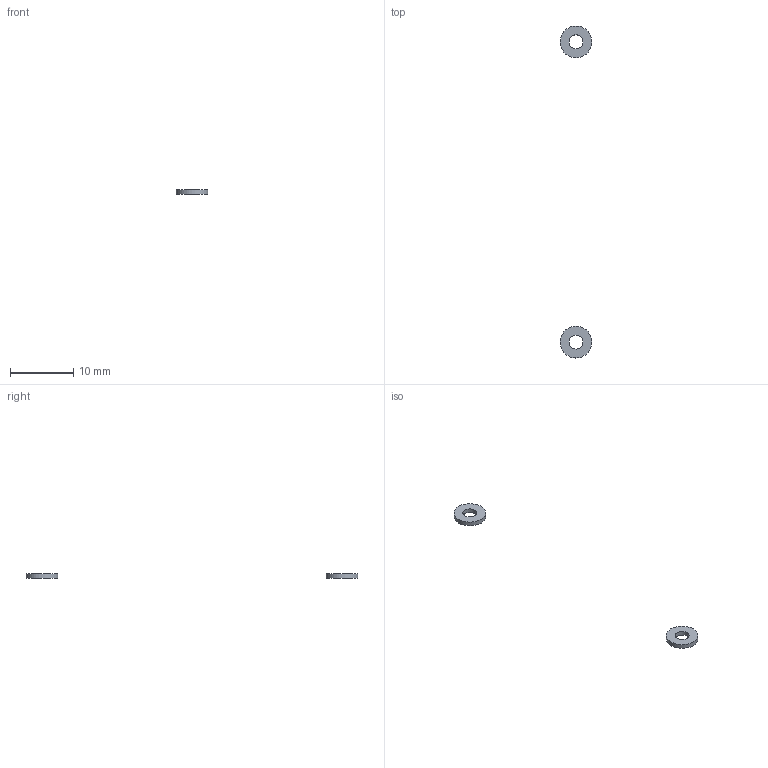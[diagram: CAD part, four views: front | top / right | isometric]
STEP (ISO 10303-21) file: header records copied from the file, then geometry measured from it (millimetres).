
FILE_DESCRIPTION(/* description */ (''),/* implementation_level */ '2;1');
FILE_NAME(/* name */ 'Speaker_spacers_reference.step',/* time_stamp */ '2026-09-21T11:03:00-07:00',/* author */ (''),/* organization */ (''),/* preprocessor_version */ 'ST-DEVELOPER v20.2',/* originating_system */ 'Autodesk Translation Framework v15.15.0.0',/* authorisation */ '');
FILE_SCHEMA (('AUTOMOTIVE_DESIGN { 1 0 10303 214 3 1 1 }'));
Length unit declared in the file: millimetre
Products named in the file (1): 2026-09-21-11-03-00-243
Bounding box: 5 x 52.3 x 0.7 mm (x, y, z)
Volume: 22.2 mm3; surface area: 95 mm2
Topology: 2 solids, 2 shells, 8 faces, 12 edges, 8 vertices
Faces by surface type: cylinder 4, plane 4
Full cylindrical faces by diameter (mm): 2.2 x2, 5 x2
Entity records: 224 total; most frequent: DIRECTION 38, CARTESIAN_POINT 29, ORIENTED_EDGE 24, AXIS2_PLACEMENT_3D 17, EDGE_LOOP 12, EDGE_CURVE 12, FACE_OUTER_BOUND 8, CIRCLE 8
